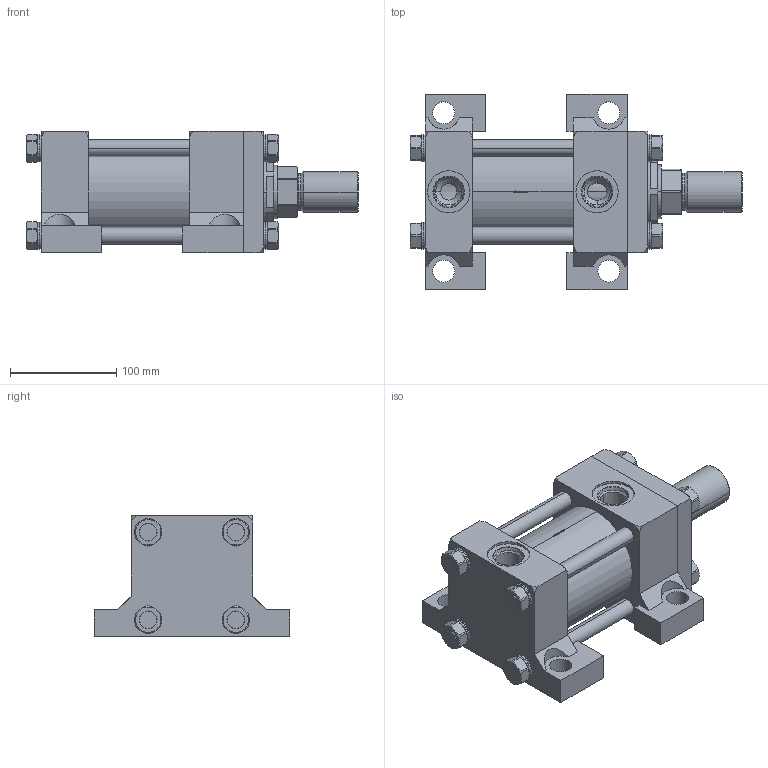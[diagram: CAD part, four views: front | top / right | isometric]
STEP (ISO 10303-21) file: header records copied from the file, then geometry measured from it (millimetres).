
FILE_DESCRIPTION (( 'STEP AP214' ), '1' );
FILE_NAME ('3.25C2HHNAT124A2.000.step', '2026-03-26T21:12:35', ( '' ), ( '' ), 'SwSTEP 2.0', 'SolidWorks 2023', '' );
FILE_SCHEMA (( 'AUTOMOTIVE_DESIGN' ));
Length unit declared in the file: inch
Products named in the file (1): 3.25C2HHNAT124A2.000
Bounding box: 312.74 x 184.15 x 114.3 mm (x, y, z)
Volume: 2310719.1 mm3; surface area: 415309.4 mm2
Topology: 47 solids, 47 shells, 1255 faces, 3237 edges, 2084 vertices
Faces by surface type: plane 807, cylinder 225, cone 163, bspline 52, torus 8
Entity records: 57047 total; most frequent: CARTESIAN_POINT 11577, ORIENTED_EDGE 6474, DIRECTION 5241, EDGE_CURVE 3237, VERTEX_POINT 2084, AXIS2_PLACEMENT_3D 1772, VECTOR 1697, LINE 1697
